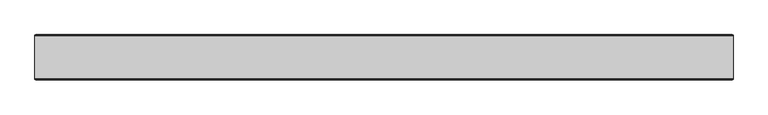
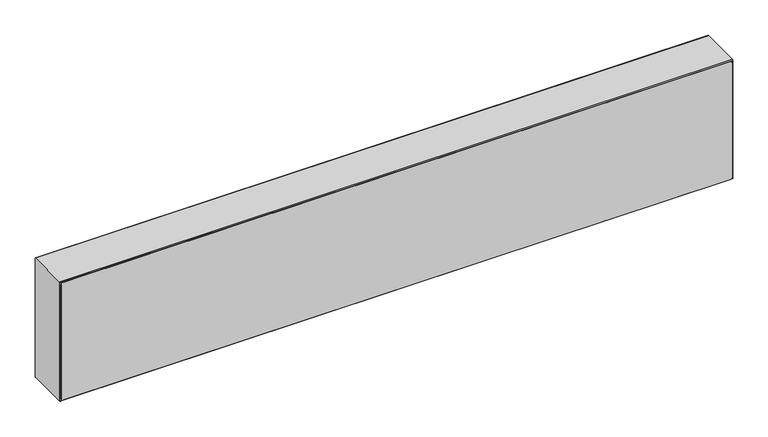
"""IFC4 building model written with IfcOpenShell, lengths in millimetres: proxy geometry, EVRA CV Д : 22-300-1600."""

from ifc_helpers import new_model, si_unit, point, frame, frame_2d, origin, place, context, project, spatial, polyline, circle_curve, trimmed, segment, composite_curve, outline, extrude, source, transform, mapped, element, save


def mechanical_equipment_393b7680(model_context):
    return source(origin(), model_context, "Body", "SweptSolid", [
        extrude(outline(composite_curve([segment(polyline([(398.0, 993.0), (398.0, -593.0)]), True, "CONTINUOUS"), segment(trimmed(circle_curve(frame_2d((393.0, -593.0)), 5.0), [point((398.0, -593.0))], [point((393.0, -598.0))], False, "CARTESIAN"), True, "CONTINUOUS"), segment(polyline([(393.0, -598.0), (107.0, -598.0)]), True, "CONTINUOUS"), segment(trimmed(circle_curve(frame_2d((107.0, -593.0)), 5.0), [point((107.0, -598.0))], [point((102.0, -593.0))], False, "CARTESIAN"), True, "CONTINUOUS"), segment(polyline([(102.0, -593.0), (102.0, 993.0)]), True, "CONTINUOUS"), segment(trimmed(circle_curve(frame_2d((107.0, 993.0)), 5.0), [point((102.0, 993.0))], [point((107.0, 998.0))], False, "CARTESIAN"), True, "CONTINUOUS"), segment(polyline([(107.0, 998.0), (393.0, 998.0)]), True, "CONTINUOUS"), segment(trimmed(circle_curve(frame_2d((393.0, 993.0)), 5.0), [point((393.0, 998.0))], [point((398.0, 993.0))], False, "CARTESIAN"), True, "CONTINUOUS")], self_intersect=False)), frame((0.0, 11.4631102, 0.0), z_axis=(0.0, 1.0, 0.0), x_axis=(0.0, 0.0, 1.0)), (0.0, 0.0, 1.0), 1.0),
        extrude(outline(composite_curve([segment(polyline([(398.0, 993.0), (398.0, -593.0)]), True, "CONTINUOUS"), segment(trimmed(circle_curve(frame_2d((393.0, -593.0)), 5.0), [point((398.0, -593.0))], [point((393.0, -598.0))], False, "CARTESIAN"), True, "CONTINUOUS"), segment(polyline([(393.0, -598.0), (107.0, -598.0)]), True, "CONTINUOUS"), segment(trimmed(circle_curve(frame_2d((107.0, -593.0)), 5.0), [point((107.0, -598.0))], [point((102.0, -593.0))], False, "CARTESIAN"), True, "CONTINUOUS"), segment(polyline([(102.0, -593.0), (102.0, 993.0)]), True, "CONTINUOUS"), segment(trimmed(circle_curve(frame_2d((107.0, 993.0)), 5.0), [point((102.0, 993.0))], [point((107.0, 998.0))], False, "CARTESIAN"), True, "CONTINUOUS"), segment(polyline([(107.0, 998.0), (393.0, 998.0)]), True, "CONTINUOUS"), segment(trimmed(circle_curve(frame_2d((393.0, 993.0)), 5.0), [point((393.0, 998.0))], [point((398.0, 993.0))], False, "CARTESIAN"), True, "CONTINUOUS")], self_intersect=False)), frame((0.0, -91.5368898, 0.0), z_axis=(0.0, 1.0, 0.0), x_axis=(0.0, 0.0, 1.0)), (0.0, 0.0, 1.0), 1.0),
        extrude(outline(composite_curve([segment(trimmed(circle_curve(frame_2d((9.4631102, 398.0)), 2.0), [point((9.4631102, 400.0))], [point((11.4631102, 398.0))], False, "CARTESIAN"), True, "CONTINUOUS"), segment(polyline([(11.4631102, 398.0), (11.4631102, 102.0)]), True, "CONTINUOUS"), segment(trimmed(circle_curve(frame_2d((9.4631102, 102.0)), 2.0), [point((11.4631102, 102.0))], [point((9.4631102, 100.0))], False, "CARTESIAN"), True, "CONTINUOUS"), segment(polyline([(9.4631102, 100.0), (-88.5368898, 100.0)]), True, "CONTINUOUS"), segment(trimmed(circle_curve(frame_2d((-88.5368898, 102.0)), 2.0), [point((-88.5368898, 100.0))], [point((-90.5368898, 102.0))], False, "CARTESIAN"), True, "CONTINUOUS"), segment(polyline([(-90.5368898, 102.0), (-90.5368898, 398.0)]), True, "CONTINUOUS"), segment(trimmed(circle_curve(frame_2d((-88.5368898, 398.0)), 2.0), [point((-90.5368898, 398.0))], [point((-88.5368898, 400.0))], False, "CARTESIAN"), True, "CONTINUOUS"), segment(polyline([(-88.5368898, 400.0), (9.4631102, 400.0)]), True, "CONTINUOUS")], self_intersect=False)), frame((-600.0, 0.0, 0.0), z_axis=(1.0, 0.0, 0.0), x_axis=(0.0, 1.0, 0.0)), (0.0, 0.0, 1.0), 1600.0),
    ])


if __name__ == "__main__":
    model = new_model("IFC4")
    model_context = context("Model", 3, world=origin())
    ifc_project = project(units=[si_unit("LENGTHUNIT", "METRE", prefix="MILLI")], contexts=[model_context])
    site = spatial("IfcSite", under=ifc_project)
    building = spatial("IfcBuilding", under=site)
    placement = place(None, origin())
    mechanical_equipment_shape = mechanical_equipment_393b7680(model_context)
    element("IfcBuildingElementProxy", 1, Name="EVRA CV Д : 22-300-1600", ObjectType="EVRA CV Д : 22-300-1600", at=placement, inside=building, context=model_context, shape_type="MappedRepresentation", body=[
        mapped(mechanical_equipment_shape, transform((0.0, 0.0, 0.0), x_axis=(1.0, 0.0, 0.0), y_axis=(0.0, 1.0, 0.0), z_axis=(0.0, 0.0, 1.0))),
    ])
    save(model, "model.ifc")
